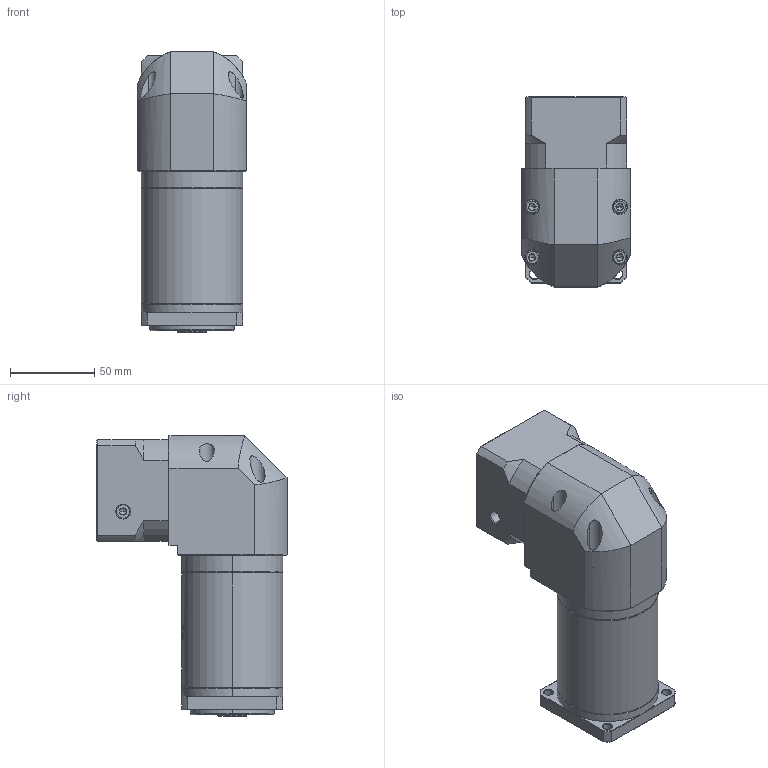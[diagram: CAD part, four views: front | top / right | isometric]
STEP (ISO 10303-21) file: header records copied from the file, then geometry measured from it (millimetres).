
FILE_DESCRIPTION (( 'STEP AP214' ), '1' );
FILE_NAME ('ZFR060-K10-L3-P2-11-50-70-M4.step', '2023-08-17T03:39:10', ( '' ), ( '' ), 'SwSTEP 2.0', 'SolidWorks 2016', '' );
FILE_SCHEMA (( 'AUTOMOTIVE_DESIGN' ));
Length unit declared in the file: millimetre
Products named in the file (1): ZFR060-K10-L3-P2-11-50-70-M4
Bounding box: 65 x 112.7 x 166.5 mm (x, y, z)
Volume: 629498.3 mm3; surface area: 83782.5 mm2
Topology: 5 solids, 6 shells, 1849 faces, 4959 edges, 3206 vertices
Faces by surface type: plane 840, cylinder 356, bspline 347, cone 282, torus 24
Entity records: 97844 total; most frequent: CARTESIAN_POINT 35085, ORIENTED_EDGE 9878, DIRECTION 7442, EDGE_CURVE 4939, VERTEX_POINT 3206, VECTOR 2534, LINE 2534, AXIS2_PLACEMENT_3D 2454
